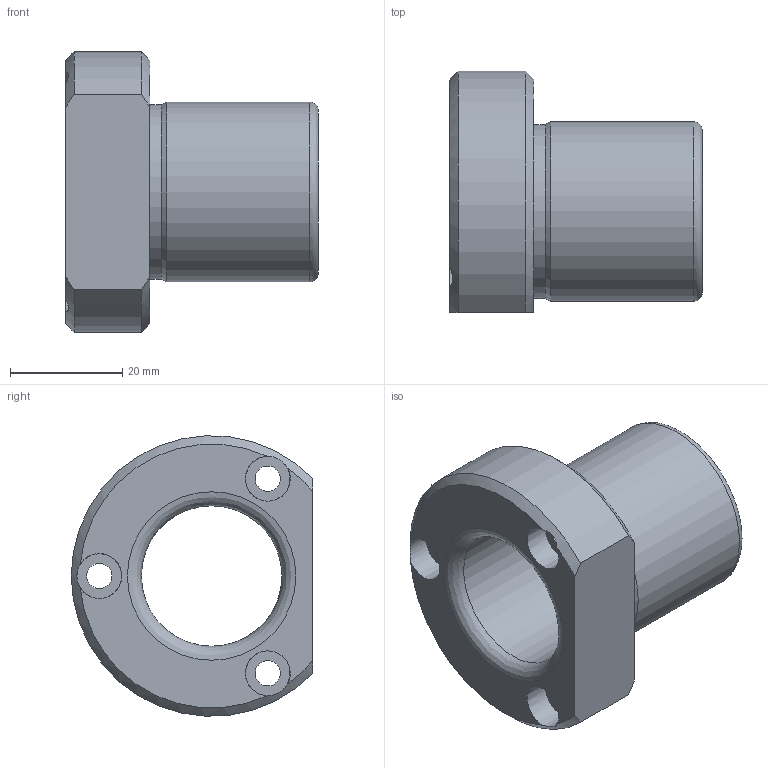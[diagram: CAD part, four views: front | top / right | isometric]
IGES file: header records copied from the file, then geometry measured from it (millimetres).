
Global section: file name: B5AG19-5.ipt; native system: Autodesk Inventor 2021; preprocessor: unknown; author: SM; date: 20211220.141024; units: millimetre
Bounding box: 45 x 43 x 49.95 mm (x, y, z)
Volume: 27210.8 mm3; surface area: 11787.8 mm2
Topology: 1 solids, 1 shells, 23 faces, 66 edges, 46 vertices
Faces by surface type: revolution 10, plane 7, cylinder 3, cone 3
Full cylindrical faces by diameter (mm): 31 x1, 32 x1
